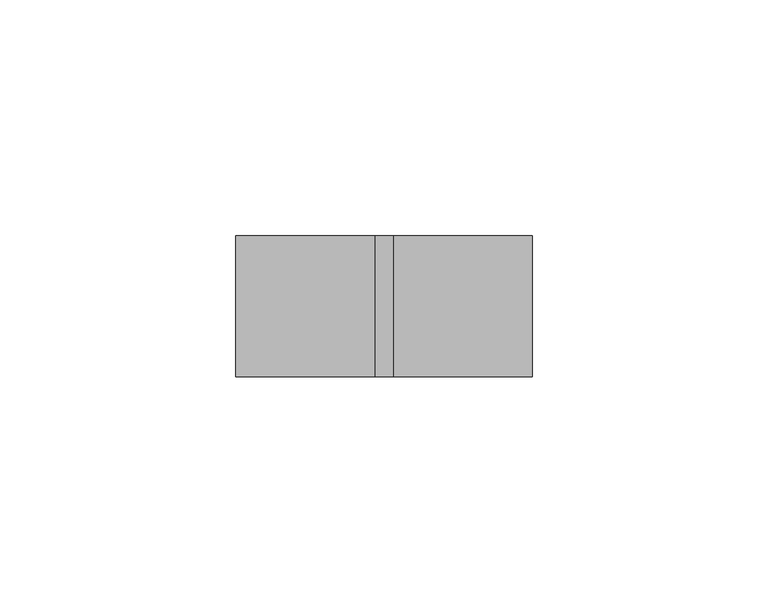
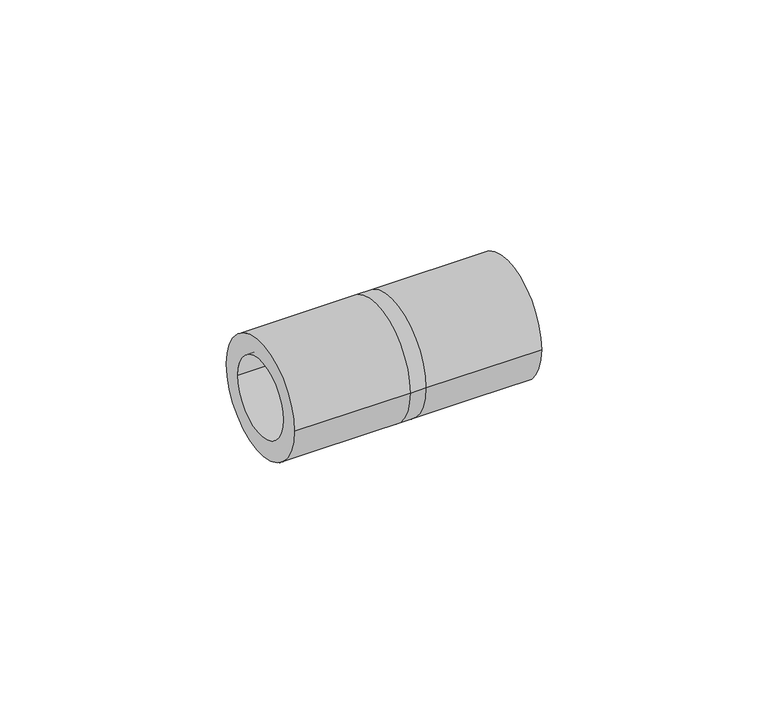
"""IFC4 building model written with IfcOpenShell, lengths in millimetres: cable carrier fitting geometry."""

import ifcopenshell
import ifcopenshell.guid

model = None  # the IFC model being written
_history = None  # IfcOwnerHistory: only IFC2X3 demands one
_inside = {}  # id of a spatial element -> (the spatial element, [elements in it])
_under = {}  # id of a project, library or spatial element -> (it, [spatial elements below it])
_declared = {}  # id of a project -> (the project, [libraries it declares])
_typed = {}  # id of a type object -> (the type object, [elements of that type])
_made_of = {}  # id of a material, layer set ... -> (it, [elements and type objects made of it])


def new_model(schema):
    """Start an empty IFC model of exactly this schema.

    Asked for "IFC4X3", IfcOpenShell would pick the latest addendum, in which some entities
    have other attributes; the version numbers below select the first issue.
    IFC2X3 requires an IfcOwnerHistory on every rooted entity: one is made here for all.
    """
    global model, _history
    if schema == "IFC4X3":
        model = ifcopenshell.file(schema_version=(4, 3, 0, 0))
    else:
        model = ifcopenshell.file(schema=schema)
    _inside.clear()
    _under.clear()
    _declared.clear()
    _typed.clear()
    _made_of.clear()
    _history = None
    if model.schema == "IFC2X3":
        org = make("IfcOrganization", Name="unknown")
        user = make(
            "IfcPersonAndOrganization",
            ThePerson=make("IfcPerson", FamilyName="unknown"),
            TheOrganization=org,
        )
        app = make(
            "IfcApplication",
            ApplicationDeveloper=org,
            Version="unknown",
            ApplicationFullName="unknown",
            ApplicationIdentifier="unknown",
        )
        _history = make(
            "IfcOwnerHistory",
            OwningUser=user,
            OwningApplication=app,
            ChangeAction="ADDED",
            CreationDate=0,
        )
    return model


def make(cls, **values):
    """One entity of the class cls with the attributes given. An attribute that is None is left unset."""
    return model.create_entity(
        cls, **{name: value for name, value in values.items() if value is not None}
    )


def rooted(cls, **values):
    """An entity with a GlobalId (a new one), such as an element, a storey or a relation."""
    return make(cls, GlobalId=ifcopenshell.guid.new(), OwnerHistory=_history, **values)


def si_unit(unit_type, name, prefix=None):
    """IfcSIUnit, for example si_unit("LENGTHUNIT", "METRE", prefix="MILLI")."""
    return make("IfcSIUnit", UnitType=unit_type, Prefix=prefix, Name=name)


def assignment(units):
    """IfcUnitAssignment: the units of a project."""
    return None if units is None else make("IfcUnitAssignment", Units=units)


def point(xyz):
    """IfcCartesianPoint."""
    return None if xyz is None else make("IfcCartesianPoint", Coordinates=xyz)


def direction(xyz):
    """IfcDirection."""
    return None if xyz is None else make("IfcDirection", DirectionRatios=xyz)


def frame(location, z_axis=None, x_axis=None):
    """IfcAxis2Placement3D, a coordinate frame: its origin and axes. An axis left out is left unset."""
    return make(
        "IfcAxis2Placement3D",
        Location=point(location),
        Axis=direction(z_axis),
        RefDirection=direction(x_axis),
    )


def origin():
    """The frame at (0, 0, 0) with its axes left unset."""
    return frame((0.0, 0.0, 0.0))


def place(relative_to, where):
    """IfcLocalPlacement: puts the frame where relative to a parent placement (None: the world)."""
    return make(
        "IfcLocalPlacement", PlacementRelTo=relative_to, RelativePlacement=where
    )


def context(
    kind, dimensions, precision=None, world=None, true_north=None, identifier=None
):
    """IfcGeometricRepresentationContext, for example the 3D "Model" context."""
    return make(
        "IfcGeometricRepresentationContext",
        ContextIdentifier=identifier,
        ContextType=kind,
        CoordinateSpaceDimension=dimensions,
        Precision=precision,
        WorldCoordinateSystem=world,
        TrueNorth=true_north,
    )


def project(units=None, contexts=None):
    """IfcProject with its units and contexts."""
    return rooted(
        "IfcProject",
        Name="project",
        RepresentationContexts=contexts,
        UnitsInContext=assignment(units),
    )


def spatial(cls, under=None, at=None, **own):
    """A site, building, storey or space (cls), placed at a placement, below another one or the project."""
    s = rooted(cls, ObjectPlacement=at, **own)
    if under is not None:
        _under.setdefault(under.id(), (under, []))[1].append(s)
    return s


def polyline(points):
    """IfcPolyline through the points."""
    return make("IfcPolyline", Points=[point(p) for p in points])


def circle_curve(where, radius):
    """IfcCircle in the frame where."""
    return make("IfcCircle", Position=where, Radius=radius)


def shape(context_of_items, identifier, shape_type, items):
    """IfcShapeRepresentation: the items that make up one representation, for example the "Body"."""
    return make(
        "IfcShapeRepresentation",
        ContextOfItems=context_of_items,
        RepresentationIdentifier=identifier,
        RepresentationType=shape_type,
        Items=items,
    )


def source(mapping_origin, context_of_items, identifier, shape_type, items):
    """IfcRepresentationMap: a shape defined once, which mapped items show again and again."""
    return make(
        "IfcRepresentationMap",
        MappingOrigin=mapping_origin,
        MappedRepresentation=shape(context_of_items, identifier, shape_type, items),
    )


def transform(
    local_origin,
    x_axis=None,
    y_axis=None,
    z_axis=None,
    scale=None,
    scale2=None,
    scale3=None,
    uniform=True,
):
    """IfcCartesianTransformationOperator3D, or its non-uniform kind. x_axis, y_axis, z_axis: its Axis1, 2, 3."""
    if uniform:
        return make(
            "IfcCartesianTransformationOperator3D",
            Axis1=direction(x_axis),
            Axis2=direction(y_axis),
            LocalOrigin=point(local_origin),
            Scale=scale,
            Axis3=direction(z_axis),
        )
    return make(
        "IfcCartesianTransformationOperator3DnonUniform",
        Axis1=direction(x_axis),
        Axis2=direction(y_axis),
        LocalOrigin=point(local_origin),
        Scale=scale,
        Axis3=direction(z_axis),
        Scale2=scale2,
        Scale3=scale3,
    )


def mapped(mapping_source, mapping_target):
    """IfcMappedItem: shows the shape of a source again, moved by a transform."""
    return make(
        "IfcMappedItem", MappingSource=mapping_source, MappingTarget=mapping_target
    )


def made_of(thing, what):
    """Note that an element or type object is made of a material, layer set ...; save() writes the relation."""
    if what is not None:
        _made_of.setdefault(what.id(), (what, []))[1].append(thing)
    return thing


def element(
    cls,
    number,
    at=None,
    inside=None,
    cuts=None,
    type_object=None,
    material=None,
    context=None,
    identifier="Body",
    shape_type=None,
    held_by="IfcProductDefinitionShape",
    body=None,
    shapes=None,
    **own,
):
    """One element of the class cls, such as IfcWall. Its Tag is "e" and its number.

    at: its placement. inside: the storey or other place that contains it. cuts: it is an
    opening in that element (IfcRelVoidsElement). A single representation is given by context,
    identifier, shape_type and body (its items); several are given by shapes. held_by: the class
    of the entity that holds the representations. save() writes the other relations.
    """
    e = rooted(cls, Tag="e%d" % number, ObjectPlacement=at, **own)
    if body is not None:
        shapes = [shape(context, identifier, shape_type, body)]
    if shapes is not None:
        e.Representation = make(held_by, Representations=shapes)
    if inside is not None:
        _inside.setdefault(inside.id(), (inside, []))[1].append(e)
    if cuts is not None:
        rooted(
            "IfcRelVoidsElement", RelatingBuildingElement=cuts, RelatedOpeningElement=e
        )
    if type_object is not None:
        _typed.setdefault(type_object.id(), (type_object, []))[1].append(e)
    return made_of(e, material)


def aggregate(whole, parts):
    """IfcRelAggregates: a whole, such as a stair, and the parts it consists of."""
    return rooted("IfcRelAggregates", RelatingObject=whole, RelatedObjects=parts)


def save(model, path):
    """Write the relations noted so far, then the file.

    IfcRelAggregates (storeys below a building ...), IfcRelContainedInSpatialStructure (elements
    in a storey), IfcRelDefinesByType, IfcRelAssociatesMaterial and IfcRelDeclares: one each for
    every whole, place, type object, material and project.
    """
    for whole, parts in _under.values():
        aggregate(whole, parts)
    for where, things in _inside.values():
        rooted(
            "IfcRelContainedInSpatialStructure",
            RelatedElements=things,
            RelatingStructure=where,
        )
    for kind, things in _typed.values():
        rooted("IfcRelDefinesByType", RelatedObjects=things, RelatingType=kind)
    for what, things in _made_of.values():
        rooted("IfcRelAssociatesMaterial", RelatedObjects=things, RelatingMaterial=what)
    for by, libraries in _declared.values():
        rooted("IfcRelDeclares", RelatingContext=by, RelatedDefinitions=libraries)
    model.write(path)


def plane_surface(at):
    """IfcPlane: the flat surface through the origin of the frame at, square to its z axis."""
    return make("IfcPlane", Position=at)


def cylinder_surface(at, radius):
    """IfcCylindricalSurface: all points at the distance radius from the z axis of the frame at."""
    return make("IfcCylindricalSurface", Position=at, Radius=radius)


def revolved_surface(curve, axis_point, axis_direction):
    """IfcSurfaceOfRevolution: the curve turned about the line through axis_point along axis_direction."""
    return make(
        "IfcSurfaceOfRevolution",
        SweptCurve=make("IfcArbitraryOpenProfileDef", ProfileType="CURVE", Curve=curve),
        AxisPosition=make("IfcAxis1Placement", Location=point(axis_point), Axis=direction(axis_direction)),
    )


def advanced_brep(points, edges, surfaces, faces):
    """IfcAdvancedBrep: a solid bounded by faces that lie on surfaces and meet in shared edges.

    An edge is (start, end): straight between two places in points (the first is 0);
    or (start, end, curve); or (start, end, curve, False) where it runs against its curve.
    A face is (place in surfaces, loops), or (place, loops, False) where it looks against
    its surface's normal. A loop lists edges by number (the first is 1), with a minus sign
    where the edge is run from its end to its start. The first loop is the outer one.
    """
    corners = [point(p) for p in points]
    vertices = [make("IfcVertexPoint", VertexGeometry=c) for c in corners]
    made = []
    for start, end, *more in edges:
        made.append(
            make(
                "IfcEdgeCurve",
                EdgeStart=vertices[start],
                EdgeEnd=vertices[end],
                EdgeGeometry=more[0] if more else make("IfcPolyline", Points=[corners[start], corners[end]]),
                SameSense=more[1] if len(more) > 1 else True,
            )
        )
    hull = []
    for where, loops, *sense in faces:
        bounds = []
        for j, loop in enumerate(loops):
            ring = [make("IfcOrientedEdge", EdgeElement=made[abs(k) - 1], Orientation=k > 0) for k in loop]
            bounds.append(
                make(
                    "IfcFaceOuterBound" if j == 0 else "IfcFaceBound",
                    Bound=make("IfcEdgeLoop", EdgeList=ring),
                    Orientation=True,
                )
            )
        hull.append(make("IfcAdvancedFace", Bounds=bounds, FaceSurface=surfaces[where], SameSense=sense[0] if sense else True))
    return make("IfcAdvancedBrep", Outer=make("IfcClosedShell", CfsFaces=hull))


def cable_carrier_fitting_b1187ae6(model_context):
    return source(origin(), model_context, "Body", "AdvancedBrep", [
        advanced_brep(
        [(-31.5, -15.0, 0.0), (-31.5, 15.0, 0.0), (-31.5, -10.0, 0.0), (-31.5, 10.0, 0.0), (-2.0, 10.0, 0.0), (-2.0, -10.0, 0.0), (-2.0, 15.0, 0.0), (-2.0, -15.0, 0.0), (2.0, -10.0, 0.0), (2.0, 10.0, 0.0), (2.0, -15.0, 0.0), (2.0, 15.0, 0.0), (31.5, -15.0, 0.0), (31.5, 15.0, 0.0), (31.5, -10.0, 0.0), (31.5, 10.0, 0.0)],
        [
            (0, 1, circle_curve(frame((-31.5, 0.0, 0.0), z_axis=(-1.0, 0.0, 0.0), x_axis=(0.0, 1.0, 0.0)), 15.0)),
            (1, 0, circle_curve(frame((-31.5, 0.0, 0.0), z_axis=(-1.0, 0.0, 0.0), x_axis=(0.0, 1.0, 0.0)), 15.0)),
            (2, 3, circle_curve(frame((-31.5, 0.0, 0.0), z_axis=(1.0, 0.0, 0.0), x_axis=(0.0, 1.0, 0.0)), 10.0)),
            (3, 2, circle_curve(frame((-31.5, 0.0, 0.0), z_axis=(1.0, 0.0, 0.0), x_axis=(0.0, 1.0, 0.0)), 10.0)),
            (3, 4),
            (4, 5, circle_curve(frame((-2.0, 0.0, 0.0), z_axis=(1.0, 0.0, 0.0), x_axis=(0.0, 1.0, 0.0)), 10.0)),
            (5, 2),
            (5, 4, circle_curve(frame((-2.0, 0.0, 0.0), z_axis=(1.0, 0.0, 0.0), x_axis=(0.0, 1.0, 0.0)), 10.0)),
            (1, 6),
            (6, 7, circle_curve(frame((-2.0, 0.0, 0.0), z_axis=(-1.0, 0.0, 0.0), x_axis=(0.0, 1.0, 0.0)), 15.0)),
            (7, 0),
            (7, 6, circle_curve(frame((-2.0, 0.0, 0.0), z_axis=(-1.0, 0.0, 0.0), x_axis=(0.0, 1.0, 0.0)), 15.0)),
            (5, 8),
            (8, 9, circle_curve(frame((2.0, 0.0, 0.0), z_axis=(1.0, 0.0, 0.0), x_axis=(0.0, 1.0, 0.0)), 10.0)),
            (9, 4),
            (9, 8, circle_curve(frame((2.0, 0.0, 0.0), z_axis=(1.0, 0.0, 0.0), x_axis=(0.0, 1.0, 0.0)), 10.0)),
            (7, 10),
            (10, 11, circle_curve(frame((2.0, 0.0, 0.0), z_axis=(-1.0, 0.0, 0.0), x_axis=(0.0, 1.0, 0.0)), 15.0)),
            (11, 6),
            (11, 10, circle_curve(frame((2.0, 0.0, 0.0), z_axis=(-1.0, 0.0, 0.0), x_axis=(0.0, 1.0, 0.0)), 15.0)),
            (12, 13, circle_curve(frame((31.5, 0.0, 0.0), z_axis=(1.0, 0.0, 0.0), x_axis=(0.0, 1.0, 0.0)), 15.0)),
            (13, 12, circle_curve(frame((31.5, 0.0, 0.0), z_axis=(1.0, 0.0, 0.0), x_axis=(0.0, 1.0, 0.0)), 15.0)),
            (14, 15, circle_curve(frame((31.5, 0.0, 0.0), z_axis=(-1.0, 0.0, 0.0), x_axis=(0.0, 1.0, 0.0)), 10.0)),
            (15, 14, circle_curve(frame((31.5, 0.0, 0.0), z_axis=(-1.0, 0.0, 0.0), x_axis=(0.0, 1.0, 0.0)), 10.0)),
            (13, 11),
            (10, 12),
            (15, 9),
            (8, 14),
        ],
        [
            plane_surface(frame((-31.5, 0.0, 0.0), z_axis=(-1.0, 0.0, 0.0), x_axis=(0.0, 0.0, 1.0))),
            revolved_surface(polyline([(-2.0, 10.0, 0.0), (-31.5, 10.0, 0.0)]), (-31.5, 0.0, 0.0), (1.0, 0.0, 0.0)),
            cylinder_surface(frame((-31.5, 0.0, 0.0), z_axis=(-1.0, 0.0, 0.0), x_axis=(0.0, 1.0, 0.0)), 15.0),
            revolved_surface(polyline([(2.0, 10.0, 0.0), (-2.0, 10.0, 0.0)]), (-2.0, 0.0, 0.0), (1.0, 0.0, 0.0)),
            cylinder_surface(frame((-2.0, 0.0, 0.0), z_axis=(-1.0, 0.0, 0.0), x_axis=(0.0, 1.0, 0.0)), 15.0),
            plane_surface(frame((31.5, 0.0, 0.0), z_axis=(1.0, 0.0, 0.0), x_axis=(0.0, 0.0, 1.0))),
            cylinder_surface(frame((2.0, 0.0, 0.0), z_axis=(-1.0, 0.0, 0.0), x_axis=(0.0, 1.0, 0.0)), 15.0),
            revolved_surface(polyline([(31.5, 10.0, 0.0), (2.0, 10.0, 0.0)]), (2.0, 0.0, 0.0), (1.0, 0.0, 0.0)),
        ],
        [
            (0, [[1, 2], [3, 4]]),
            (1, [[-4, 5, 6, 7]]),
            (1, [[-3, -7, 8, -5]]),
            (2, [[-2, 9, 10, 11]]),
            (2, [[-1, -11, 12, -9]]),
            (3, [[13, 14, 15, -8]]),
            (3, [[-13, -6, -15, 16]]),
            (4, [[17, 18, 19, -12]]),
            (4, [[-17, -10, -19, 20]]),
            (5, [[21, 22], [23, 24]]),
            (6, [[-22, 25, -18, 26]]),
            (6, [[-21, -26, -20, -25]]),
            (7, [[-24, 27, -14, 28]]),
            (7, [[-23, -28, -16, -27]]),
        ],
    ),
    ])


if __name__ == "__main__":
    model = new_model("IFC4")
    model_context = context("Model", 3, world=origin())
    ifc_project = project(units=[si_unit("LENGTHUNIT", "METRE", prefix="MILLI")], contexts=[model_context])
    site = spatial("IfcSite", under=ifc_project)
    building = spatial("IfcBuilding", under=site)
    placement = place(None, origin())
    cable_carrier_fitting_shape = cable_carrier_fitting_b1187ae6(model_context)
    element("IfcCableCarrierFitting", 1, at=placement, inside=building, context=model_context, shape_type="MappedRepresentation", body=[
        mapped(cable_carrier_fitting_shape, transform((0.0, 0.0, 0.0), x_axis=(1.0, 0.0, 0.0), y_axis=(0.0, 1.0, 0.0), z_axis=(0.0, 0.0, 1.0))),
    ])
    save(model, "model.ifc")
